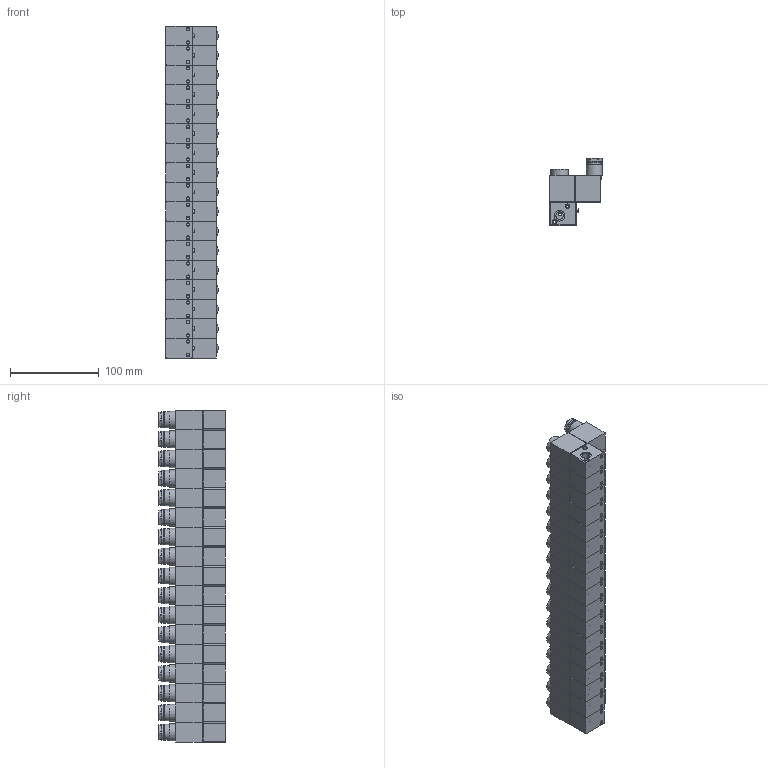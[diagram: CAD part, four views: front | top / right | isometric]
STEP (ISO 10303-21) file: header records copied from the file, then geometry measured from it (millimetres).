
FILE_DESCRIPTION(/* description */ ('STEP AP214'),/* implementation_level */ '2;1');
FILE_NAME(/* name */ '86-MS-3V-17-xxx.stp',/* time_stamp */ '2026-01-15T09:36:22+01:00',/* author */ ('Tschernatsch'),/* organization */ ('CADENAS'),/* preprocessor_version */ 'ST-DEVELOPER v20',/* originating_system */ 'Autodesk Inventor 2024',/* authorisation */ ' ');
FILE_SCHEMA (('AUTOMOTIVE_DESIGN { 1 0 10303 214 3 1 1 }'));
Length unit declared in the file: millimetre
Products named in the file (3): 3v1-06-LD-DC24V-17F; 3v1-06-LD-DC24V-17F3; 3v1-06-LD-DC24V-17F2
Assembly tree (34 placements, depth 2):
  3v1-06-LD-DC24V-17F
    3v1-06-LD-DC24V-17F3  x17
    3v1-06-LD-DC24V-17F2  x17
Bounding box: 59 x 75 x 374 mm (x, y, z)
Volume: 989366.9 mm3; surface area: 252632.7 mm2
Topology: 34 solids, 34 shells, 1530 faces, 3315 edges, 2193 vertices
Faces by surface type: plane 1037, cylinder 425, cone 68
Full cylindrical faces by diameter (mm): 3.242 x34, 3.5 x51, 4 x17, 4.3 x17, 5.2 x68, 8.566 x51, 11 x17, 12 x34, 14.4 x17, 18 x34, 19.6 x17
Entity records: 2857 total; most frequent: DIRECTION 521, CARTESIAN_POINT 453, ORIENTED_EDGE 390, AXIS2_PLACEMENT_3D 200, EDGE_CURVE 195, VERTEX_POINT 129, LINE 121, VECTOR 121
